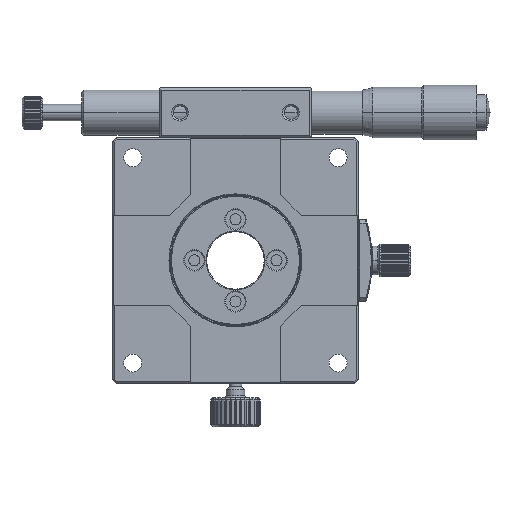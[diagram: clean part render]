
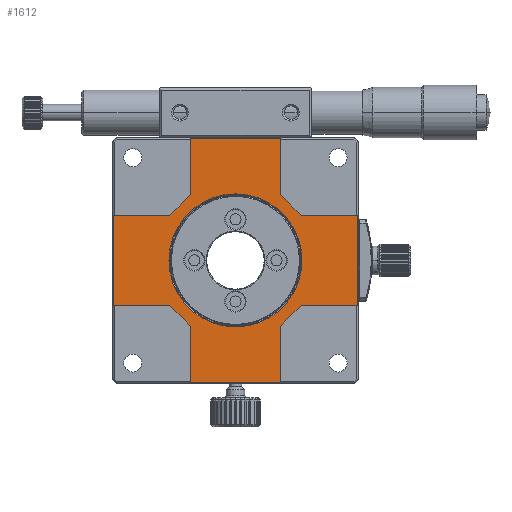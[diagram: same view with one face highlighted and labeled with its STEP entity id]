
A CAD part, front view. The second image highlights one B-rep face of the part: STEP entity #1612.
In plain terms, the highlighted planar face has unit normal (0, -1, 0).
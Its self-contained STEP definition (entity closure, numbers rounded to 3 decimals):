
#137=DIRECTION('',(0.,0.,1.));
#138=VECTOR('',#137,22.);
#139=CARTESIAN_POINT('',(29.7,-6.8,-11.));
#140=LINE('',#139,#138);
#153=DIRECTION('',(0.,0.,-1.));
#154=VECTOR('',#153,13.7);
#155=CARTESIAN_POINT('',(-11.,-6.8,-16.));
#156=LINE('',#155,#154);
#157=DIRECTION('',(0.707,0.,-0.707));
#158=VECTOR('',#157,7.071);
#159=CARTESIAN_POINT('',(-16.,-6.8,-11.));
#160=LINE('',#159,#158);
#161=DIRECTION('',(1.,0.,0.));
#162=VECTOR('',#161,13.7);
#163=CARTESIAN_POINT('',(-29.7,-6.8,-11.));
#164=LINE('',#163,#162);
#165=DIRECTION('',(-1.,0.,0.));
#166=VECTOR('',#165,13.7);
#167=CARTESIAN_POINT('',(-16.,-6.8,11.));
#168=LINE('',#167,#166);
#169=DIRECTION('',(-0.707,0.,-0.707));
#170=VECTOR('',#169,7.071);
#171=CARTESIAN_POINT('',(-11.,-6.8,16.));
#172=LINE('',#171,#170);
#173=DIRECTION('',(0.,0.,-1.));
#174=VECTOR('',#173,13.7);
#175=CARTESIAN_POINT('',(-11.,-6.8,29.7));
#176=LINE('',#175,#174);
#177=DIRECTION('',(0.,0.,1.));
#178=VECTOR('',#177,13.7);
#179=CARTESIAN_POINT('',(11.,-6.8,16.));
#180=LINE('',#179,#178);
#181=DIRECTION('',(-0.707,0.,0.707));
#182=VECTOR('',#181,7.071);
#183=CARTESIAN_POINT('',(16.,-6.8,11.));
#184=LINE('',#183,#182);
#185=DIRECTION('',(-1.,0.,0.));
#186=VECTOR('',#185,13.7);
#187=CARTESIAN_POINT('',(29.7,-6.8,11.));
#188=LINE('',#187,#186);
#189=DIRECTION('',(1.,0.,0.));
#190=VECTOR('',#189,13.7);
#191=CARTESIAN_POINT('',(16.,-6.8,-11.));
#192=LINE('',#191,#190);
#193=DIRECTION('',(0.707,0.,0.707));
#194=VECTOR('',#193,7.071);
#195=CARTESIAN_POINT('',(11.,-6.8,-16.));
#196=LINE('',#195,#194);
#197=DIRECTION('',(0.,0.,1.));
#198=VECTOR('',#197,13.7);
#199=CARTESIAN_POINT('',(11.,-6.8,-29.7));
#200=LINE('',#199,#198);
#201=CARTESIAN_POINT('',(0.,-6.8,0.));
#202=DIRECTION('',(0.,-1.,0.));
#203=DIRECTION('',(0.,0.,-1.));
#204=AXIS2_PLACEMENT_3D('',#201,#202,#203);
#206=CARTESIAN_POINT('',(0.,-6.8,0.));
#207=DIRECTION('',(0.,-1.,0.));
#208=DIRECTION('',(0.,0.,1.));
#209=AXIS2_PLACEMENT_3D('',#206,#207,#208);
#211=DIRECTION('',(1.,0.,0.));
#212=VECTOR('',#211,22.);
#213=CARTESIAN_POINT('',(-11.,-6.8,-29.7));
#214=LINE('',#213,#212);
#797=DIRECTION('',(-1.,0.,0.));
#798=VECTOR('',#797,22.);
#799=CARTESIAN_POINT('',(11.,-6.8,29.7));
#800=LINE('',#799,#798);
#821=DIRECTION('',(0.,0.,-1.));
#822=VECTOR('',#821,22.);
#823=CARTESIAN_POINT('',(-29.7,-6.8,11.));
#824=LINE('',#823,#822);
#1221=CARTESIAN_POINT('',(-11.,-6.8,-29.7));
#1222=CARTESIAN_POINT('',(11.,-6.8,-29.7));
#1223=VERTEX_POINT('',#1221);
#1224=VERTEX_POINT('',#1222);
#1225=CARTESIAN_POINT('',(29.7,-6.8,-11.));
#1226=CARTESIAN_POINT('',(29.7,-6.8,11.));
#1227=VERTEX_POINT('',#1225);
#1228=VERTEX_POINT('',#1226);
#1229=CARTESIAN_POINT('',(11.,-6.8,29.7));
#1230=CARTESIAN_POINT('',(-11.,-6.8,29.7));
#1231=VERTEX_POINT('',#1229);
#1232=VERTEX_POINT('',#1230);
#1233=CARTESIAN_POINT('',(-29.7,-6.8,11.));
#1234=CARTESIAN_POINT('',(-29.7,-6.8,-11.));
#1235=VERTEX_POINT('',#1233);
#1236=VERTEX_POINT('',#1234);
#1237=CARTESIAN_POINT('',(16.,-6.8,11.));
#1238=VERTEX_POINT('',#1237);
#1239=CARTESIAN_POINT('',(11.,-6.8,16.));
#1240=VERTEX_POINT('',#1239);
#1241=CARTESIAN_POINT('',(-11.,-6.8,16.));
#1242=VERTEX_POINT('',#1241);
#1243=CARTESIAN_POINT('',(-16.,-6.8,11.));
#1244=VERTEX_POINT('',#1243);
#1245=CARTESIAN_POINT('',(-16.,-6.8,-11.));
#1246=VERTEX_POINT('',#1245);
#1247=CARTESIAN_POINT('',(-11.,-6.8,-16.));
#1248=VERTEX_POINT('',#1247);
#1249=CARTESIAN_POINT('',(11.,-6.8,-16.));
#1250=VERTEX_POINT('',#1249);
#1251=CARTESIAN_POINT('',(16.,-6.8,-11.));
#1252=VERTEX_POINT('',#1251);
#1337=CARTESIAN_POINT('',(0.,-6.8,-16.2));
#1338=CARTESIAN_POINT('',(0.,-6.8,16.2));
#1339=VERTEX_POINT('',#1337);
#1340=VERTEX_POINT('',#1338);
#1569=CARTESIAN_POINT('',(0.,-6.8,0.));
#1570=DIRECTION('',(0.,-1.,0.));
#1571=DIRECTION('',(-1.,0.,0.));
#1572=AXIS2_PLACEMENT_3D('',#1569,#1570,#1571);
#1573=PLANE('',#1572);
#1575=ORIENTED_EDGE('',*,*,#1574,.F.);
#1577=ORIENTED_EDGE('',*,*,#1576,.F.);
#1579=ORIENTED_EDGE('',*,*,#1578,.F.);
#1581=ORIENTED_EDGE('',*,*,#1580,.F.);
#1583=ORIENTED_EDGE('',*,*,#1582,.F.);
#1585=ORIENTED_EDGE('',*,*,#1584,.F.);
#1587=ORIENTED_EDGE('',*,*,#1586,.F.);
#1589=ORIENTED_EDGE('',*,*,#1588,.F.);
#1591=ORIENTED_EDGE('',*,*,#1590,.F.);
#1593=ORIENTED_EDGE('',*,*,#1592,.F.);
#1595=ORIENTED_EDGE('',*,*,#1594,.F.);
#1596=ORIENTED_EDGE('',*,*,#1541,.F.);
#1597=ORIENTED_EDGE('',*,*,#1553,.F.);
#1599=ORIENTED_EDGE('',*,*,#1598,.F.);
#1601=ORIENTED_EDGE('',*,*,#1600,.F.);
#1603=ORIENTED_EDGE('',*,*,#1602,.F.);
#1604=EDGE_LOOP('',(#1575,#1577,#1579,#1581,#1583,#1585,#1587,#1589,#1591,#1593,
#1595,#1596,#1597,#1599,#1601,#1603));
#1605=FACE_OUTER_BOUND('',#1604,.F.);
#1607=ORIENTED_EDGE('',*,*,#1606,.T.);
#1609=ORIENTED_EDGE('',*,*,#1608,.T.);
#1610=EDGE_LOOP('',(#1607,#1609));
#1611=FACE_BOUND('',#1610,.F.);
#1612=ADVANCED_FACE('',(#1605,#1611),#1573,.T.);
#205=CIRCLE('',#204,16.2);
#210=CIRCLE('',#209,16.2);
#1541=EDGE_CURVE('',#1228,#1238,#188,.T.);
#1553=EDGE_CURVE('',#1227,#1228,#140,.T.);
#1574=EDGE_CURVE('',#1223,#1224,#214,.T.);
#1576=EDGE_CURVE('',#1248,#1223,#156,.T.);
#1578=EDGE_CURVE('',#1246,#1248,#160,.T.);
#1580=EDGE_CURVE('',#1236,#1246,#164,.T.);
#1582=EDGE_CURVE('',#1235,#1236,#824,.T.);
#1584=EDGE_CURVE('',#1244,#1235,#168,.T.);
#1586=EDGE_CURVE('',#1242,#1244,#172,.T.);
#1588=EDGE_CURVE('',#1232,#1242,#176,.T.);
#1590=EDGE_CURVE('',#1231,#1232,#800,.T.);
#1592=EDGE_CURVE('',#1240,#1231,#180,.T.);
#1594=EDGE_CURVE('',#1238,#1240,#184,.T.);
#1598=EDGE_CURVE('',#1252,#1227,#192,.T.);
#1600=EDGE_CURVE('',#1250,#1252,#196,.T.);
#1602=EDGE_CURVE('',#1224,#1250,#200,.T.);
#1606=EDGE_CURVE('',#1339,#1340,#205,.T.);
#1608=EDGE_CURVE('',#1340,#1339,#210,.T.);
